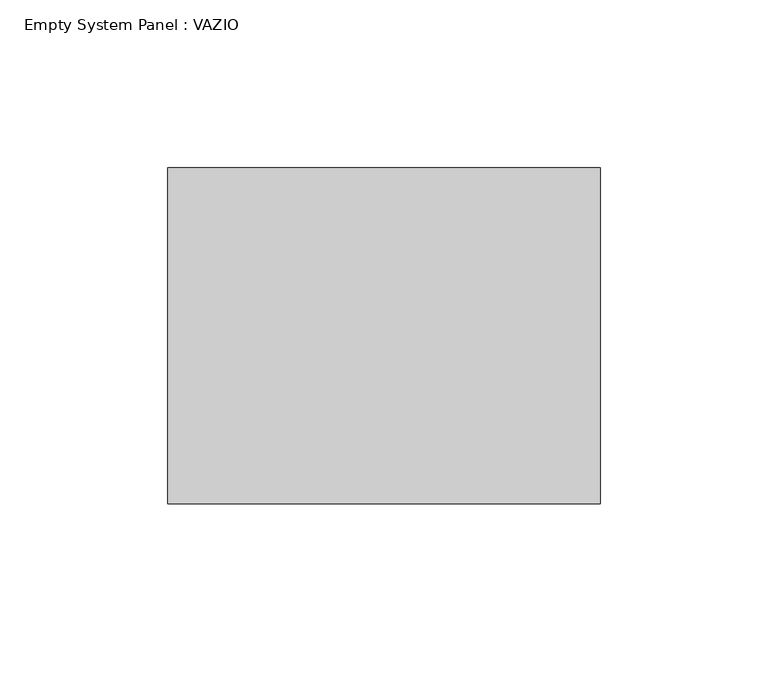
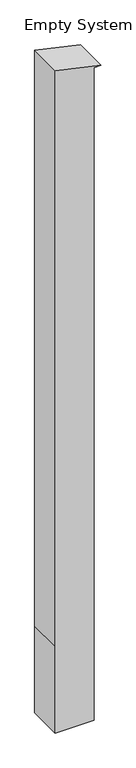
"""IFC4 building model written with IfcOpenShell, lengths in millimetres: plate geometry, Empty System Panel : VAZIO."""

from ifc_helpers import new_model, si_unit, point, frame, frame_2d, origin, place, context, project, spatial, polyline, circle_curve, trimmed, segment, composite_curve, outline, extrude, source, transform, mapped, element, save


def empty_system_panel_vazio_9a40c585(model_context):
    return source(origin(), model_context, "Body", "SweptSolid", [
        extrude(outline(composite_curve([segment(polyline([(0.0, -64.3902439), (0.0, 44.3902439), (256.7936467, 44.3902439), (1934.6316941, 44.3902439), (1934.6316941, 64.3902439)]), True, "CONTINUOUS"), segment(trimmed(circle_curve(frame_2d((3146.6227404, 274.0955233)), 1229.9994311), [point((1934.6316941, 64.3902439))], [point((1964.1143954, -64.3902439))], True, "CARTESIAN"), True, "CONTINUOUS"), segment(polyline([(1964.1143954, -64.3902439), (256.7936467, -64.3902439), (0.0, -64.3902439)]), True, "CONTINUOUS")], self_intersect=False)), frame((0.0, -50.0, 0.0), z_axis=(0.0, 1.0, 0.0), x_axis=(0.0, 0.0, 1.0)), (0.0, 0.0, 1.0), 100.0),
    ])


if __name__ == "__main__":
    model = new_model("IFC4")
    model_context = context("Model", 3, world=origin())
    ifc_project = project(units=[si_unit("LENGTHUNIT", "METRE", prefix="MILLI")], contexts=[model_context])
    site = spatial("IfcSite", under=ifc_project)
    building = spatial("IfcBuilding", under=site)
    placement = place(None, origin())
    empty_system_panel_vazio_shape = empty_system_panel_vazio_9a40c585(model_context)
    element("IfcPlate", 1, ObjectType="Empty System Panel : VAZIO", at=placement, inside=building, context=model_context, shape_type="MappedRepresentation", body=[
        mapped(empty_system_panel_vazio_shape, transform((0.0, 0.0, 0.0), x_axis=(1.0, 0.0, 0.0), y_axis=(0.0, 1.0, 0.0), z_axis=(0.0, 0.0, 1.0))),
    ])
    save(model, "model.ifc")
